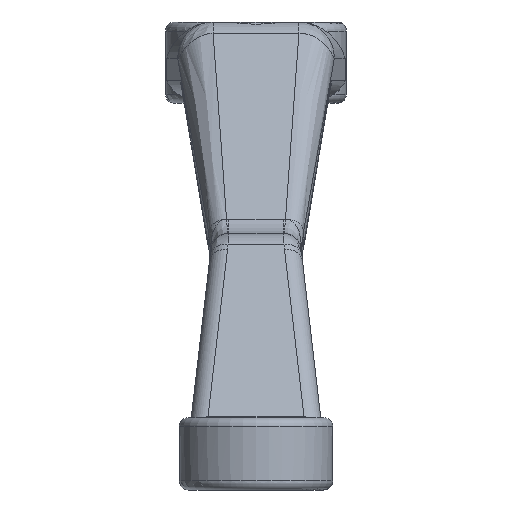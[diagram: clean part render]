
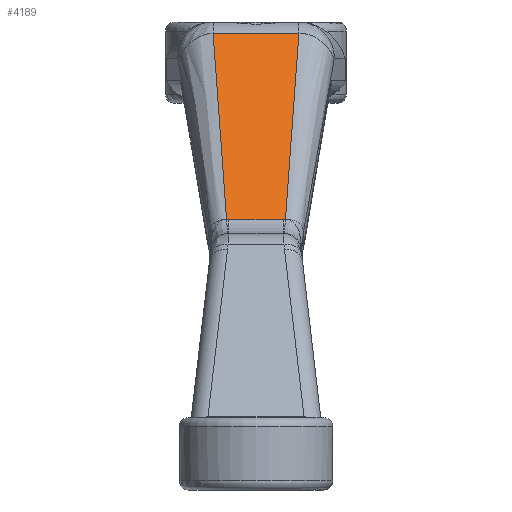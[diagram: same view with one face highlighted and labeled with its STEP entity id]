
A CAD part, left-side view. The second image highlights one B-rep face of the part: STEP entity #4189.
In plain terms, the highlighted planar face has unit normal (-0.721, 0, 0.693).
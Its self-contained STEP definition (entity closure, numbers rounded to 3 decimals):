
#46=ELLIPSE($,#4531,9.704,7.);
#47=ELLIPSE($,#4532,9.704,7.);
#463=B_SPLINE_CURVE_WITH_KNOTS($,3,(#7622,#7623,#7624,#7625),
 .UNSPECIFIED.,.F.,.F.,(4,4),(-3.08,-0.218),
 .UNSPECIFIED.);
#466=B_SPLINE_CURVE_WITH_KNOTS($,3,(#7641,#7642,#7643,#7644),
 .UNSPECIFIED.,.F.,.F.,(4,4),(-3.073,-0.212),
 .UNSPECIFIED.);
#467=B_SPLINE_CURVE_WITH_KNOTS($,3,(#7646,#7647,#7648,#7649),
 .UNSPECIFIED.,.F.,.F.,(4,4),(-3.082,-3.073),
 .UNSPECIFIED.);
#468=B_SPLINE_CURVE_WITH_KNOTS($,3,(#7656,#7657,#7658,#7659),
 .UNSPECIFIED.,.F.,.F.,(4,4),(-0.218,-0.209),
 .UNSPECIFIED.);
#786=FACE_OUTER_BOUND($,#1067,.T.);
#1067=EDGE_LOOP($,(#3510,#3511,#3512,#3513,#3514,#3515,#3516,#3517));
#1334=LINE($,#7362,#1568);
#1340=LINE($,#7653,#1574);
#1568=VECTOR($,#5330,9.49);
#1574=VECTOR($,#5362,6.);
#1893=VERTEX_POINT($,#7350);
#1894=VERTEX_POINT($,#7361);
#1903=VERTEX_POINT($,#7621);
#1905=VERTEX_POINT($,#7640);
#1906=VERTEX_POINT($,#7645);
#1907=VERTEX_POINT($,#7650);
#1908=VERTEX_POINT($,#7652);
#1909=VERTEX_POINT($,#7654);
#2441=EDGE_CURVE($,#1893,#1894,#1334,.T.);
#2460=EDGE_CURVE($,#1894,#1903,#463,.T.);
#2463=EDGE_CURVE($,#1905,#1893,#466,.T.);
#2464=EDGE_CURVE($,#1906,#1905,#467,.T.);
#2465=EDGE_CURVE($,#1907,#1906,#46,.T.);
#2466=EDGE_CURVE($,#1908,#1907,#1340,.T.);
#2467=EDGE_CURVE($,#1909,#1908,#47,.T.);
#2468=EDGE_CURVE($,#1903,#1909,#468,.T.);
#3510=ORIENTED_EDGE($,*,*,#2441,.F.);
#3511=ORIENTED_EDGE($,*,*,#2463,.F.);
#3512=ORIENTED_EDGE($,*,*,#2464,.F.);
#3513=ORIENTED_EDGE($,*,*,#2465,.F.);
#3514=ORIENTED_EDGE($,*,*,#2466,.F.);
#3515=ORIENTED_EDGE($,*,*,#2467,.F.);
#3516=ORIENTED_EDGE($,*,*,#2468,.F.);
#3517=ORIENTED_EDGE($,*,*,#2460,.F.);
#3975=PLANE($,#4530);
#4189=ADVANCED_FACE($,(#786),#3975,.T.);
#4530=AXIS2_PLACEMENT_3D($,#7639,#5358,#5359);
#4531=AXIS2_PLACEMENT_3D($,#7651,#5360,#5361);
#4532=AXIS2_PLACEMENT_3D($,#7655,#5363,#5364);
#5330=DIRECTION($,(0.,-1.,0.));
#5358=DIRECTION('center_axis',(-0.721,0.,0.693));
#5359=DIRECTION('ref_axis',(0.693,0.,0.721));
#5360=DIRECTION('center_axis',(-0.721,0.,0.693));
#5361=DIRECTION('ref_axis',(0.693,0.,0.721));
#5362=DIRECTION($,(0.,1.,0.));
#5363=DIRECTION('center_axis',(-0.721,0.,0.693));
#5364=DIRECTION('ref_axis',(0.693,0.,0.721));
#7350=CARTESIAN_POINT('',(168.819,4.745,46.544));
#7361=CARTESIAN_POINT('',(168.819,-4.745,46.544));
#7362=CARTESIAN_POINT($,(168.819,0.,46.544));
#7621=CARTESIAN_POINT('',(149.082,-3.263,25.984));
#7622=CARTESIAN_POINT('Ctrl Pts',(168.819,-4.745,46.544));
#7623=CARTESIAN_POINT('Ctrl Pts',(162.245,-3.86,39.696));
#7624=CARTESIAN_POINT('Ctrl Pts',(155.658,-4.142,32.834));
#7625=CARTESIAN_POINT('Ctrl Pts',(149.082,-3.263,25.984));
#7639=CARTESIAN_POINT('Origin',(147.548,0.,24.387));
#7640=CARTESIAN_POINT('',(149.082,3.263,25.984));
#7641=CARTESIAN_POINT('Ctrl Pts',(149.082,3.263,25.984));
#7642=CARTESIAN_POINT('Ctrl Pts',(155.658,4.142,32.834));
#7643=CARTESIAN_POINT('Ctrl Pts',(162.245,3.86,39.696));
#7644=CARTESIAN_POINT('Ctrl Pts',(168.819,4.745,46.544));
#7645=CARTESIAN_POINT('',(149.02,3.255,25.92));
#7646=CARTESIAN_POINT('Ctrl Pts',(149.02,3.255,25.92));
#7647=CARTESIAN_POINT('Ctrl Pts',(149.04,3.257,25.941));
#7648=CARTESIAN_POINT('Ctrl Pts',(149.061,3.26,25.963));
#7649=CARTESIAN_POINT('Ctrl Pts',(149.082,3.263,25.984));
#7650=CARTESIAN_POINT('',(149.024,3.,25.924));
#7651=CARTESIAN_POINT('Origin',(142.304,3.,18.924));
#7652=CARTESIAN_POINT('',(149.024,-3.,25.924));
#7653=CARTESIAN_POINT($,(149.024,0.,25.924));
#7654=CARTESIAN_POINT('',(149.02,-3.255,25.92));
#7655=CARTESIAN_POINT('Origin',(142.304,-3.,18.924));
#7656=CARTESIAN_POINT('Ctrl Pts',(149.082,-3.263,25.984));
#7657=CARTESIAN_POINT('Ctrl Pts',(149.061,-3.26,25.963));
#7658=CARTESIAN_POINT('Ctrl Pts',(149.04,-3.257,25.941));
#7659=CARTESIAN_POINT('Ctrl Pts',(149.02,-3.255,25.92));
